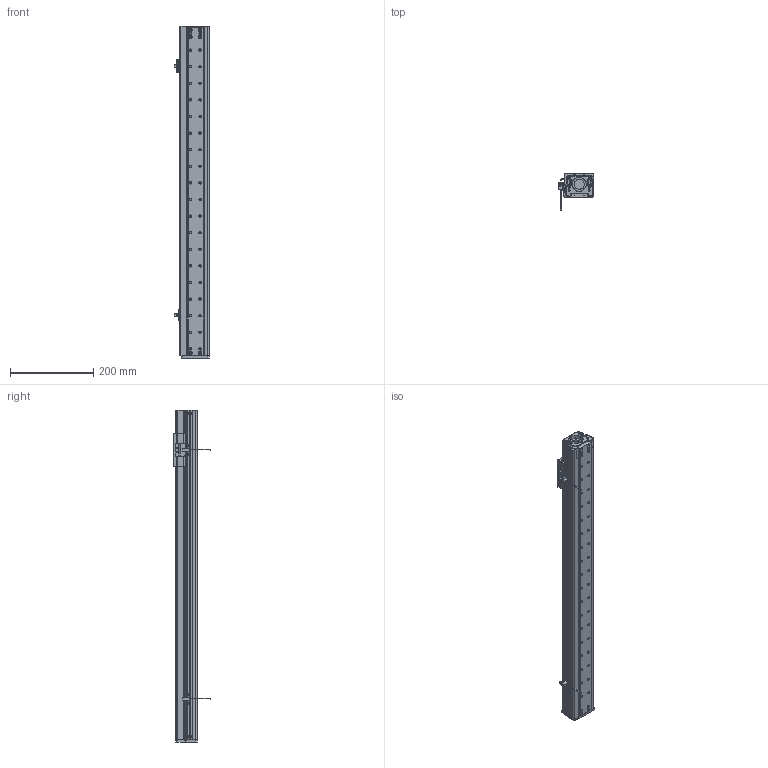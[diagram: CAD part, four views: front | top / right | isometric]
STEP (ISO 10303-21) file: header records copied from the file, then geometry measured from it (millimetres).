
FILE_DESCRIPTION (( 'STEP AP203' ), '1' );
FILE_NAME ('CTHM6-S600.STEP', '2019-12-18T01:52:14', ( '微软用户' ), ( '微软中国' ), 'SwSTEP 2.0', 'SolidWorks 2017', '' );
FILE_SCHEMA (( 'CONFIG_CONTROL_DESIGN' ));
Length unit declared in the file: millimetre
Products named in the file (17): 羲壽え; M3-L6囀鞠褒蹟佪; 支持侧轴承座(带磁条); EE-SX672-BR; 遣喳蝶15x12x8; 滅袉蝶; MG60裔啣; CTHM6-S600; 耜結啣(湍羞); LMW15奻窅; DG60傷裔(祥結傷裔); 蟀諉釱(裔啣党蜊); M4-L10囀鞠褒蹟佪; LMW15AA; 侧挡板2(带磁条修改厚度); 固定侧轴承座(自制轴承座); M3-L6半圆头内六角螺丝
Assembly tree (29 placements, depth 2):
  CTHM6-S600
    LMW15奻窅
    蟀諉釱(裔啣党蜊)
    LMW15AA
    固定侧轴承座(自制轴承座)
    羲壽え
    支持侧轴承座(带磁条)
    遣喳蝶15x12x8  x2
    MG60裔啣
    耜結啣(湍羞)
    DG60傷裔(祥結傷裔)
    M4-L10囀鞠褒蹟佪  x2
    侧挡板2(带磁条修改厚度)
    M3-L6半圆头内六角螺丝  x8
    M3-L6囀鞠褒蹟佪  x4
    EE-SX672-BR  x2
    滅袉蝶
Bounding box: 86.7 x 87.8 x 800 mm (x, y, z)
Volume: 816708 mm3; surface area: 561769.8 mm2
Topology: 33 solids, 33 shells, 2003 faces, 5122 edges, 3168 vertices
Faces by surface type: plane 798, cylinder 729, cone 362, torus 88, bspline 26
Entity records: 54832 total; most frequent: CARTESIAN_POINT 11373, DIRECTION 8970, ORIENTED_EDGE 8460, EDGE_CURVE 4230, AXIS2_PLACEMENT_3D 3366, VERTEX_POINT 2669, VECTOR 2238, LINE 2238
